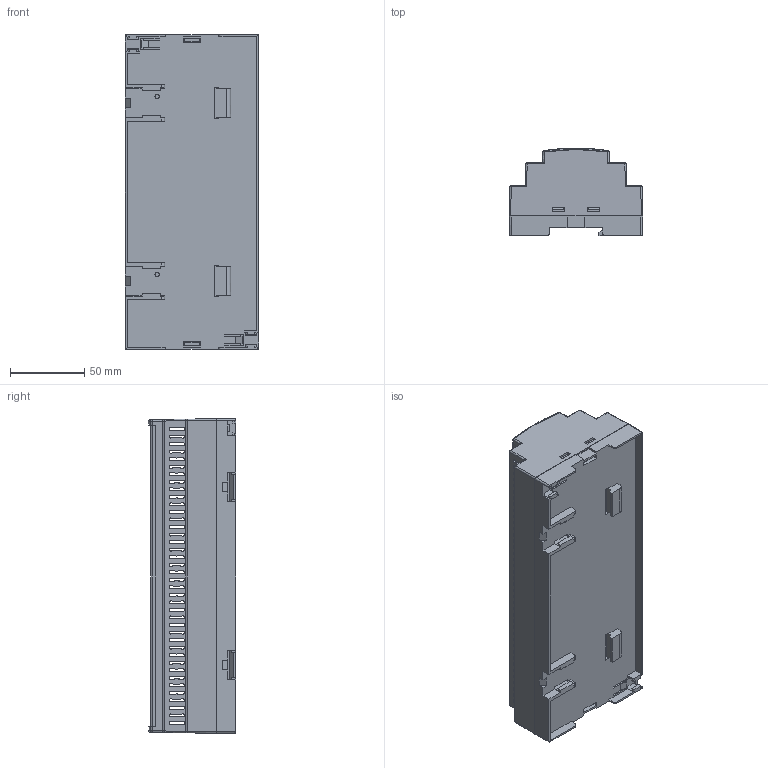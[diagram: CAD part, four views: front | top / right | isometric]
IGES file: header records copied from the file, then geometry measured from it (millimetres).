
Start section: SolidWorks IGES file using analytic representation for surfaces
Global section: file name: C:\Users\dursun\Desktop\RT-212-B.IGS; native system: SolidWorks 2021; preprocessor: SolidWorks 2021; author: dursun; date: 210707.100301; units: millimetre
Bounding box: 90 x 58.9 x 212.1 mm (x, y, z)
Surface area: 145274 mm2 (no closed solid volume)
Topology: 0 solids, 0 shells, 1275 faces, 14775 edges, 14775 vertices
Faces by surface type: revolution 816, bspline 459
